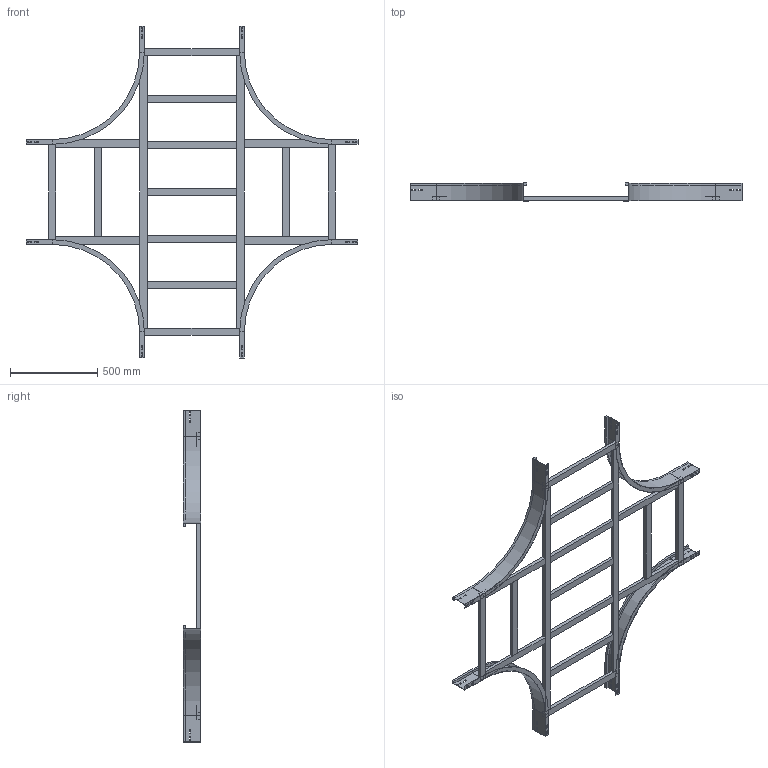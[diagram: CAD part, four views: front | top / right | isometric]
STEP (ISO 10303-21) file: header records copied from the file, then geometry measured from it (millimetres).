
FILE_DESCRIPTION (( 'STEP AP214' ), '1' );
FILE_NAME ('17B5D600.step', '2025-02-21T15:54:35', ( '' ), ( '' ), 'SwSTEP 2.0', 'SolidWorks 2023', '' );
FILE_SCHEMA (( 'AUTOMOTIVE_DESIGN' ));
Length unit declared in the file: millimetre
Products named in the file (7): LONGH.INTERNO 90°_H100_R500; TRAVERSINO_VERT_R500; TRAVERSINO_COPPIA_600; TRAVERSINO_INTERMEDIO_R500+600; TRAVERSINO_600; TRAVERSINO_LONG._R500+600; 17B5D600
Assembly tree (21 placements, depth 2):
  17B5D600
    LONGH.INTERNO 90°_H100_R500  x4
    TRAVERSINO_600  x4
    TRAVERSINO_LONG._R500+600  x2
    TRAVERSINO_INTERMEDIO_R500+600  x5
    TRAVERSINO_VERT_R500  x4
    TRAVERSINO_COPPIA_600  x2
Bounding box: 1900 x 100 x 1900 mm (x, y, z)
Volume: 10865353.6 mm3; surface area: 2611230.7 mm2
Topology: 21 solids, 21 shells, 334 faces, 812 edges, 520 vertices
Faces by surface type: plane 318, cylinder 16
Entity records: 2868 total; most frequent: CARTESIAN_POINT 460, DIRECTION 444, ORIENTED_EDGE 424, EDGE_CURVE 212, VECTOR 204, LINE 204, VERTEX_POINT 136, AXIS2_PLACEMENT_3D 120
